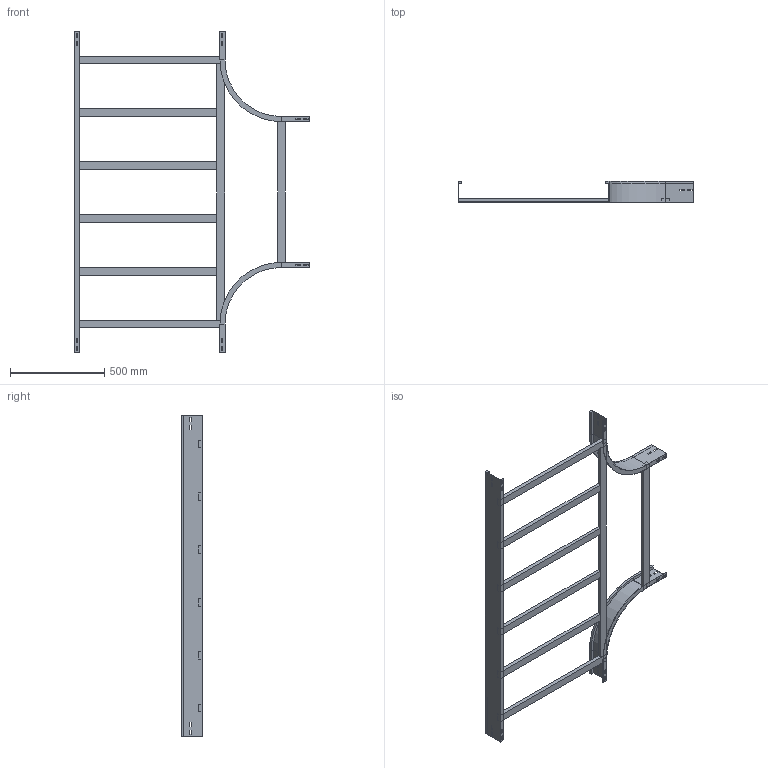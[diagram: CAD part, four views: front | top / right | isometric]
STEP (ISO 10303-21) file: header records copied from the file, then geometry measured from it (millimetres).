
FILE_DESCRIPTION (( 'STEP AP214' ), '1' );
FILE_NAME ('A2_15B3J800.step', '2025-02-21T15:51:44', ( '' ), ( '' ), 'SwSTEP 2.0', 'SolidWorks 2023', '' );
FILE_SCHEMA (( 'AUTOMOTIVE_DESIGN' ));
Length unit declared in the file: millimetre
Products named in the file (6): A2_TRAVERSINO_LONG._R300+800; A2_LONGH.INTERNO 90°_H112.5_R300; TRAVERSINO_INTERMEDIO_R300+800; A2_15B3J800; TRAVERSINO_800; A2_LONGH.RETT_H112.5_R300+800
Assembly tree (11 placements, depth 2):
  A2_15B3J800
    A2_LONGH.INTERNO 90°_H112.5_R300  x2
    A2_LONGH.RETT_H112.5_R300+800
    TRAVERSINO_800  x3
    A2_TRAVERSINO_LONG._R300+800
    TRAVERSINO_INTERMEDIO_R300+800  x4
Bounding box: 1250 x 112.5 x 1700 mm (x, y, z)
Volume: 6999156.5 mm3; surface area: 1843436.7 mm2
Topology: 11 solids, 11 shells, 206 faces, 520 edges, 336 vertices
Faces by surface type: plane 198, cylinder 8
Entity records: 3831 total; most frequent: CARTESIAN_POINT 640, ORIENTED_EDGE 616, DIRECTION 580, EDGE_CURVE 308, VECTOR 300, LINE 300, VERTEX_POINT 200, EDGE_LOOP 150
